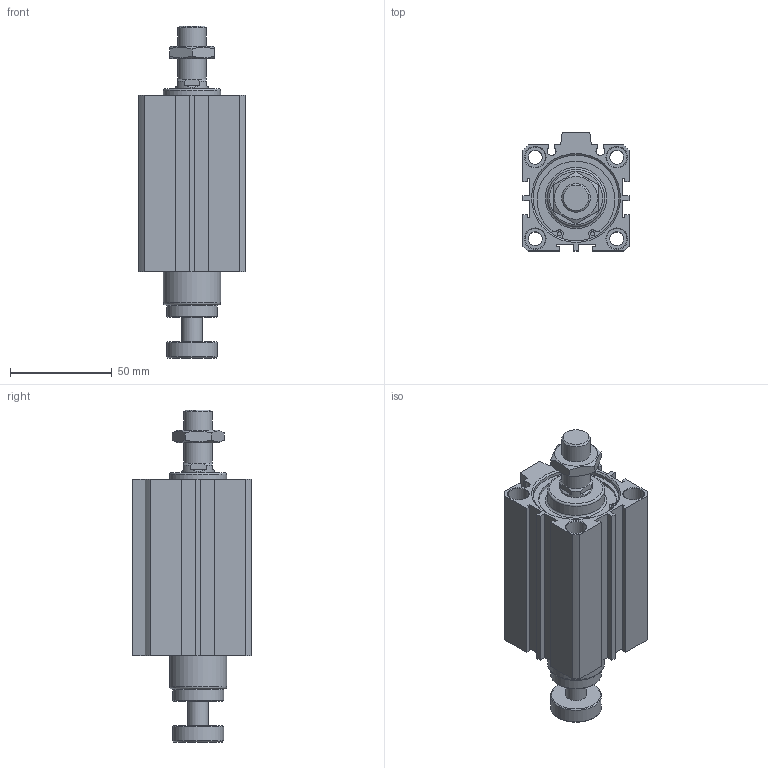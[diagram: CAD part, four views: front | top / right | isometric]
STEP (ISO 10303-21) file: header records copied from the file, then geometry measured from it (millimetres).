
FILE_DESCRIPTION((''),'2;1');
FILE_NAME('I:\3D電子目錄\氣缸\JDAR\JDAR-B\JDAR40-B\JDAR40x60-B.stp','2007-03-14T14:54:06',('662F206'),(''),'Autodesk Inventor 11','Autodesk Inventor 11','');
FILE_SCHEMA(('AUTOMOTIVE_DESIGN { 1 0 10303 214 1 1 1 1 }'));
Length unit declared in the file: millimetre
Products named in the file (3): JDAR40-B; R 形環 42
Assembly tree (3 placements, depth 2):
  JDAR40-B
    JDAR40-B
    R 形環 42  x2
Bounding box: 52 x 58 x 162.8 mm (x, y, z)
Volume: 227857.4 mm3; surface area: 49225.9 mm2
Topology: 3 solids, 3 shells, 179 faces, 418 edges, 271 vertices
Faces by surface type: plane 100, cylinder 50, cone 25, bspline 2, torus 2
Full cylindrical faces by diameter (mm): 1.9 x4, 2.2 x2, 6.8 x4, 10 x9, 14 x2, 16 x1, 25 x2, 28 x2, 42 x4, 44.5 x2
Entity records: 4585 total; most frequent: CARTESIAN_POINT 873, DIRECTION 770, ORIENTED_EDGE 654, EDGE_CURVE 327, AXIS2_PLACEMENT_3D 292, EDGE_LOOP 260, VERTEX_POINT 245, VECTOR 186
